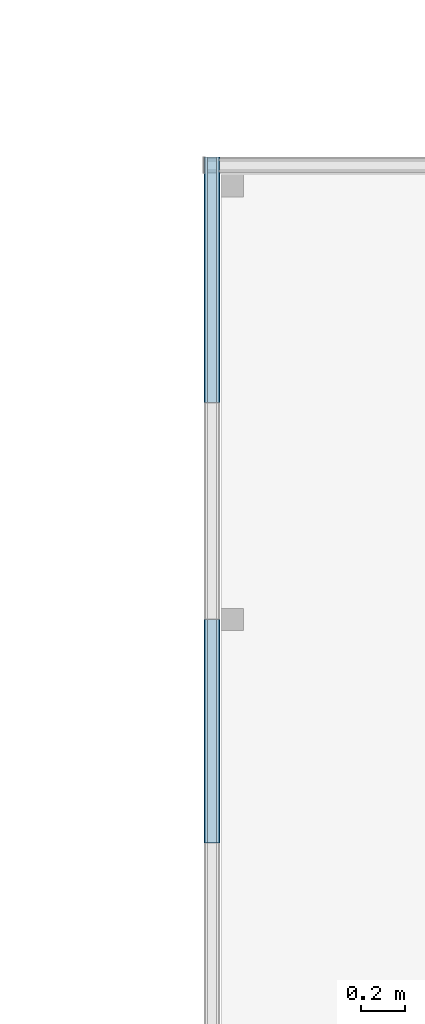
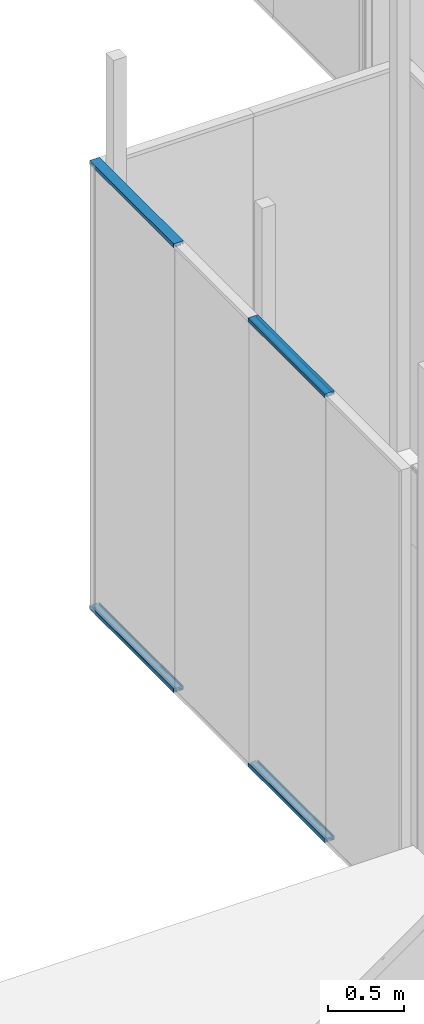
# One storey, part 79 of 387: 8 building element parts, 5 elements without a shape of their own.
"""IFC2X3 building model written with IfcOpenShell, lengths in millimetres."""

from ifc_helpers import new_model, entity, si_unit, converted_unit, derived_unit, money_unit, direction, frame, origin_with_axes, place, context, subcontext, project, spatial, faceted_brep, source, transform, mapped, material, type_object, element, aggregate, save


model = new_model("IFC2X3")

# Units and contexts
model_context = context("Model", 3, precision=0.01, world=origin_with_axes(), true_north=direction((0.0, 1.0)))
body_context = subcontext(model_context, "Body", "Model", "MODEL_VIEW")
ifc_project = project(units=[si_unit("LENGTHUNIT", "METRE", prefix="MILLI"), si_unit("AREAUNIT", "SQUARE_METRE"), si_unit("VOLUMEUNIT", "CUBIC_METRE"), converted_unit("PLANEANGLEUNIT", "DEGREE", entity("IfcPlaneAngleMeasure", 0.0174532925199), si_unit("PLANEANGLEUNIT", "RADIAN"), dimensions=[0, 0, 0, 0, 0, 0, 0]), si_unit("SOLIDANGLEUNIT", "STERADIAN"), money_unit("EUR"), converted_unit("TIMEUNIT", "Year", entity("IfcTimeMeasure", 31556926.0), si_unit("TIMEUNIT", "SECOND"), dimensions=[0, 0, 1, 0, 0, 0, 0]), si_unit("MASSUNIT", "GRAM", prefix="KILO"), si_unit("THERMODYNAMICTEMPERATUREUNIT", "DEGREE_CELSIUS"), si_unit("LUMINOUSINTENSITYUNIT", "LUMEN"), si_unit("ENERGYUNIT", "JOULE", prefix="MEGA"), derived_unit("THERMALCONDUCTANCEUNIT", [(si_unit("POWERUNIT", "WATT"), 1), (si_unit("LENGTHUNIT", "METRE"), -1), (si_unit("THERMODYNAMICTEMPERATUREUNIT", "KELVIN"), -1)]), derived_unit("SPECIFICHEATCAPACITYUNIT", [(si_unit("ENERGYUNIT", "JOULE"), 1), (si_unit("MASSUNIT", "GRAM", prefix="KILO"), -1), (si_unit("THERMODYNAMICTEMPERATUREUNIT", "KELVIN"), -1)]), derived_unit("MASSDENSITYUNIT", [(si_unit("MASSUNIT", "GRAM", prefix="KILO"), 1), (si_unit("VOLUMEUNIT", "CUBIC_METRE"), -1)])], contexts=[model_context])

# Site, building, storey
site_placement = place(None, origin_with_axes())
site = spatial("IfcSite", under=ifc_project, at=site_placement, Name="Puškini 31, Narva", CompositionType="ELEMENT")
building_placement = place(site_placement, origin_with_axes())
building = spatial("IfcBuilding", under=site, at=building_placement, Name="Narva Riigigümnaasium", CompositionType="ELEMENT")
storey_placement = place(building_placement, frame((0.0, 0.0, 2640.0), z_axis=(0.0, 0.0, 1.0), x_axis=(1.0, 0.0, 0.0)))
storey = spatial("IfcBuildingStorey", under=building, at=storey_placement, Name="2.korrus +2.64", CompositionType="ELEMENT", Elevation=2640.0)

# Curtain wall, members, building element parts
curtain_wall_type = type_object("IfcCurtainWallType", Name="Curtain Wall Type", PredefinedType="NOTDEFINED")
curtain_wall_placement = place(storey_placement, frame((39058.5000017, 177141.447761, -584.5), z_axis=(0.0, 0.0, 1.0), x_axis=(1.0, 0.0, 0.0)))
curtain_wall = element("IfcCurtainWall", 1, at=curtain_wall_placement, inside=storey, type_object=curtain_wall_type, Name="G-SKLF-39")
member_type = type_object("IfcMemberType", Name="Boundary Frame 30 x 37", PredefinedType="MULLION")
member_1_placement = place(curtain_wall_placement, frame((-5.72697445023e-09, -504.0, 0.0), z_axis=(0.0, 1.0, 0.0), x_axis=(0.0, 0.0, 1.0)))
member_1 = element("IfcMember", 2, at=member_1_placement, type_object=member_type, Name="G-SKLF-45-raam", ObjectType="MULLION")
ifc_material_1 = material(Name="Klaasvill")
shared_shape_1 = source(origin_with_axes(), body_context, "Body", "Brep", [
    faceted_brep([(-7.49999990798, 20.000000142, 0.0), (-7.49999990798, 20.000000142, 1008.0), (-13.8499999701, 20.000000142, 1008.0), (-13.8499999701, 20.000000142, 0.0), (-7.49999990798, 34.0161444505, 0.0), (-7.49999990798, 34.0161444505, 1008.0), (-13.8499999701, 34.0161444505, 1008.0), (-13.8499999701, 34.0161444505, 0.0)], [[[0, 1, 2, 3]], [[4, 5, 1, 0]], [[1, 5, 6, 2]], [[3, 2, 6, 7]], [[0, 3, 7, 4]], [[7, 6, 5, 4]]]),
    faceted_brep([(-24.987414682, 34.0161444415, 0.0), (-24.987414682, 34.0161444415, 1008.0), (-25.004489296, 32.0307503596, 1008.0), (-25.004489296, 32.0307503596, 0.0), (-28.5126239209, 34.0161444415, 0.0), (-28.5126239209, 34.0161444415, 1008.0), (-28.7655837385, 33.0385325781, 1008.0), (-28.4955493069, 32.0307503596, 1008.0), (-27.75780152, 31.2930025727, 1008.0), (-26.7500193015, 31.0229681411, 1008.0), (-25.742237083, 31.2930025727, 1008.0), (-25.742237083, 31.2930025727, 0.0), (-26.7500193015, 31.0229681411, 0.0), (-27.75780152, 31.2930025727, 0.0), (-28.4955493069, 32.0307503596, 0.0), (-28.7655837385, 33.0385325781, 0.0)], [[[0, 1, 2, 3]], [[4, 5, 1, 0]], [[1, 5, 6, 7, 8, 9, 10, 2]], [[3, 2, 10, 11]], [[0, 3, 11, 12, 13, 14, 15, 4]], [[15, 6, 5, 4]], [[14, 7, 6, 15]], [[13, 8, 7, 14]], [[12, 9, 8, 13]], [[11, 10, 9, 12]]]),
    faceted_brep([(-7.49999990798, -19.9999997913, 0.0), (-7.49999990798, -19.9999997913, 1008.0), (-7.49999990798, -34.0161445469, 1008.0), (-7.49999990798, -34.0161445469, 0.0), (-13.8499999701, -19.9999997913, 0.0), (-13.8499999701, -19.9999997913, 1008.0), (-13.8499999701, -34.0161445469, 1008.0), (-13.8499999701, -34.0161445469, 0.0)], [[[0, 1, 2, 3]], [[4, 5, 1, 0]], [[1, 5, 6, 2]], [[3, 2, 6, 7]], [[0, 3, 7, 4]], [[7, 6, 5, 4]]]),
    faceted_brep([(-25.004489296, -32.0307503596, 0.0), (-25.004489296, -32.0307503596, 1008.0), (-24.987414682, -34.0161444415, 1008.0), (-24.987414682, -34.0161444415, 0.0), (-25.742237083, -31.2930025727, 0.0), (-25.742237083, -31.2930025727, 1008.0), (-26.7500193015, -31.0229681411, 1008.0), (-27.75780152, -31.2930025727, 1008.0), (-28.4955493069, -32.0307503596, 1008.0), (-28.7655837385, -33.0385325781, 1008.0), (-28.5126239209, -34.0161444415, 1008.0), (-28.5126239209, -34.0161444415, 0.0), (-28.7655837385, -33.0385325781, 0.0), (-28.4955493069, -32.0307503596, 0.0), (-27.75780152, -31.2930025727, 0.0), (-26.7500193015, -31.0229681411, 0.0)], [[[0, 1, 2, 3]], [[4, 5, 1, 0]], [[1, 5, 6, 7, 8, 9, 10, 2]], [[3, 2, 10, 11]], [[0, 3, 11, 12, 13, 14, 15, 4]], [[15, 6, 5, 4]], [[14, 7, 6, 15]], [[13, 8, 7, 14]], [[12, 9, 8, 13]], [[11, 10, 9, 12]]]),
])
building_element_part_1_placement = place(member_1_placement, origin_with_axes())
building_element_part_1 = element("IfcBuildingElementPart", 3, at=building_element_part_1_placement, material=ifc_material_1, Name="Klaasvill", context=body_context, shape_type="MappedRepresentation", body=[
    mapped(shared_shape_1, transform((0.0, 0.0, 0.0), x_axis=(-1.0, 0.0, 0.0), y_axis=(0.0, -1.0, 0.0), z_axis=(0.0, 0.0, 1.0))),
])
member_2_placement = place(curtain_wall_placement, frame((5.71986902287e-09, 504.0, 3599.00002262), z_axis=(0.0, -1.0, 0.0), x_axis=(0.0, 0.0, -1.0)))
member_2 = element("IfcMember", 4, at=member_2_placement, type_object=member_type, Name="G-SKLF-51-raam", ObjectType="MULLION")
building_element_part_2_placement = place(member_2_placement, origin_with_axes())
building_element_part_2 = element("IfcBuildingElementPart", 5, at=building_element_part_2_placement, material=ifc_material_1, Name="Klaasvill", context=body_context, shape_type="MappedRepresentation", body=[
    mapped(shared_shape_1, transform((0.0, 0.0, 0.0), x_axis=(-1.0, 0.0, 0.0), y_axis=(0.0, -1.0, 0.0), z_axis=(0.0, 0.0, 1.0))),
])
ifc_material_2 = material(Name="Teras RAL7012")
shared_shape_2 = source(origin_with_axes(), body_context, "Body", "Brep", [
    faceted_brep([(0.0, -17.0000000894, 0.0), (0.0, -17.0000000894, 1008.0), (-29.5999996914, -17.0000000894, 1008.0), (-29.5999996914, -17.0000000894, 0.0), (0.0, 17.0000000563, 0.0), (0.0, 17.0000000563, 1008.0), (-29.5999996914, 17.0000000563, 1008.0), (-1.9999999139, 15.0000001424, 1008.0), (-1.9999999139, -15.0000001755, 1008.0), (-18.7999996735, -15.0000001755, 1008.0), (-18.7999996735, 15.0000001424, 1008.0), (-29.5999996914, 17.0000000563, 0.0), (-1.9999999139, 15.0000001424, 0.0), (-18.7999996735, 15.0000001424, 0.0), (-18.7999996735, -15.0000001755, 0.0), (-1.9999999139, -15.0000001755, 0.0)], [[[0, 1, 2, 3]], [[4, 5, 1, 0]], [[1, 5, 6, 2], [7, 8, 9, 10]], [[3, 2, 6, 11]], [[0, 3, 11, 4], [12, 13, 14, 15]], [[11, 6, 5, 4]], [[15, 8, 7, 12]], [[14, 9, 8, 15]], [[13, 10, 9, 14]], [[12, 7, 10, 13]]]),
    faceted_brep([(0.0, 17.0, 0.0), (0.0, 17.0, 1008.0), (-29.5999996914, 17.0000000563, 1008.0), (-29.5999996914, 17.0000000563, 0.0), (0.0, 37.0, 0.0), (0.0, 37.0, 1008.0), (-30.0000193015, 37.0, 1008.0), (-30.0000193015, 34.0161444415, 1008.0), (-28.5126239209, 34.0161444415, 1008.0), (-24.987414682, 34.0161444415, 1008.0), (-13.8499999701, 34.0161444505, 1008.0), (-7.49999999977, 34.0161444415, 1008.0), (-7.49999999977, 20.0, 1008.0), (-13.8499999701, 20.000000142, 1008.0), (-30.0000193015, 20.0, 1008.0), (-30.0000193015, 17.0, 1008.0), (-30.0000193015, 17.0, 0.0), (-30.0000193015, 20.0, 0.0), (-13.8499999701, 20.000000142, 0.0), (-7.49999999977, 20.0, 0.0), (-7.49999999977, 34.0161444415, 0.0), (-13.8499999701, 34.0161444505, 0.0), (-24.987414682, 34.0161444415, 0.0), (-28.5126239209, 34.0161444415, 0.0), (-30.0000193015, 34.0161444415, 0.0), (-30.0000193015, 37.0, 0.0)], [[[0, 1, 2, 3]], [[4, 5, 1, 0]], [[1, 5, 6, 7, 8, 9, 10, 11, 12, 13, 14, 15, 2]], [[3, 2, 15, 16]], [[0, 3, 16, 17, 18, 19, 20, 21, 22, 23, 24, 25, 4]], [[25, 6, 5, 4]], [[24, 7, 6, 25]], [[23, 8, 7, 24]], [[22, 9, 8, 23]], [[21, 10, 9, 22]], [[20, 11, 10, 21]], [[19, 12, 11, 20]], [[18, 13, 12, 19]], [[17, 14, 13, 18]], [[16, 15, 14, 17]]]),
    faceted_brep([(0.0, -17.0, 0.0), (0.0, -17.0, 1008.0), (0.0, -37.0, 1008.0), (0.0, -37.0, 0.0), (-29.5999996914, -17.0000000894, 0.0), (-29.5999996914, -17.0000000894, 1008.0), (-30.0000193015, -17.0, 1008.0), (-30.0000193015, -20.0, 1008.0), (-13.8499999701, -19.9999997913, 1008.0), (-7.49999999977, -20.0, 1008.0), (-7.49999999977, -34.0161444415, 1008.0), (-13.8499999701, -34.0161445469, 1008.0), (-24.987414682, -34.0161444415, 1008.0), (-28.5126239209, -34.0161444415, 1008.0), (-30.0000193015, -34.0161444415, 1008.0), (-30.0000193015, -37.0, 1008.0), (-30.0000193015, -37.0, 0.0), (-30.0000193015, -34.0161444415, 0.0), (-28.5126239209, -34.0161444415, 0.0), (-24.987414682, -34.0161444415, 0.0), (-13.8499999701, -34.0161445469, 0.0), (-7.49999999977, -34.0161444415, 0.0), (-7.49999999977, -20.0, 0.0), (-13.8499999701, -19.9999997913, 0.0), (-30.0000193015, -20.0, 0.0), (-30.0000193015, -17.0, 0.0)], [[[0, 1, 2, 3]], [[4, 5, 1, 0]], [[1, 5, 6, 7, 8, 9, 10, 11, 12, 13, 14, 15, 2]], [[3, 2, 15, 16]], [[0, 3, 16, 17, 18, 19, 20, 21, 22, 23, 24, 25, 4]], [[25, 6, 5, 4]], [[24, 7, 6, 25]], [[23, 8, 7, 24]], [[22, 9, 8, 23]], [[21, 10, 9, 22]], [[20, 11, 10, 21]], [[19, 12, 11, 20]], [[18, 13, 12, 19]], [[17, 14, 13, 18]], [[16, 15, 14, 17]]]),
])
building_element_part_3_placement = place(member_1_placement, origin_with_axes())
building_element_part_3 = element("IfcBuildingElementPart", 6, at=building_element_part_3_placement, material=ifc_material_2, Name="Teras RAL7012", context=body_context, shape_type="MappedRepresentation", body=[
    mapped(shared_shape_2, transform((0.0, 0.0, 0.0), x_axis=(-1.0, 0.0, 0.0), y_axis=(0.0, -1.0, 0.0), z_axis=(0.0, 0.0, 1.0))),
])
aggregate(member_1, [building_element_part_1, building_element_part_3])
building_element_part_4_placement = place(member_2_placement, origin_with_axes())
building_element_part_4 = element("IfcBuildingElementPart", 7, at=building_element_part_4_placement, material=ifc_material_2, Name="Teras RAL7012", context=body_context, shape_type="MappedRepresentation", body=[
    mapped(shared_shape_2, transform((0.0, 0.0, 0.0), x_axis=(-1.0, 0.0, 0.0), y_axis=(0.0, -1.0, 0.0), z_axis=(0.0, 0.0, 1.0))),
])
aggregate(member_2, [building_element_part_2, building_element_part_4])
member_3_placement = place(curtain_wall_placement, frame((1.68185465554e-08, 1481.0, 0.0), z_axis=(0.0, 1.0, 0.0), x_axis=(0.0, 0.0, 1.0)))
member_3 = element("IfcMember", 8, at=member_3_placement, type_object=member_type, Name="G-SKLF-47-raam", ObjectType="MULLION")
shared_shape_3 = source(origin_with_axes(), body_context, "Body", "Brep", [
    faceted_brep([(-7.49999990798, 20.000000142, 0.0), (-7.49999990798, 20.000000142, 1106.552239), (-13.8499999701, 20.000000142, 1106.552239), (-13.8499999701, 20.000000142, 0.0), (-7.49999990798, 34.0161444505, 0.0), (-7.49999990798, 34.0161444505, 1106.552239), (-13.8499999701, 34.0161444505, 1106.552239), (-13.8499999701, 34.0161444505, 0.0)], [[[0, 1, 2, 3]], [[4, 5, 1, 0]], [[1, 5, 6, 2]], [[3, 2, 6, 7]], [[0, 3, 7, 4]], [[7, 6, 5, 4]]]),
    faceted_brep([(-24.987414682, 34.0161444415, 0.0), (-24.987414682, 34.0161444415, 1106.552239), (-25.004489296, 32.0307503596, 1106.552239), (-25.004489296, 32.0307503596, 0.0), (-28.5126239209, 34.0161444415, 0.0), (-28.5126239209, 34.0161444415, 1106.552239), (-28.7655837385, 33.0385325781, 1106.552239), (-28.4955493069, 32.0307503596, 1106.552239), (-27.75780152, 31.2930025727, 1106.552239), (-26.7500193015, 31.0229681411, 1106.552239), (-25.742237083, 31.2930025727, 1106.552239), (-25.742237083, 31.2930025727, 0.0), (-26.7500193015, 31.0229681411, 0.0), (-27.75780152, 31.2930025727, 0.0), (-28.4955493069, 32.0307503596, 0.0), (-28.7655837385, 33.0385325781, 0.0)], [[[0, 1, 2, 3]], [[4, 5, 1, 0]], [[1, 5, 6, 7, 8, 9, 10, 2]], [[3, 2, 10, 11]], [[0, 3, 11, 12, 13, 14, 15, 4]], [[15, 6, 5, 4]], [[14, 7, 6, 15]], [[13, 8, 7, 14]], [[12, 9, 8, 13]], [[11, 10, 9, 12]]]),
    faceted_brep([(-7.49999990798, -19.9999997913, 0.0), (-7.49999990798, -19.9999997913, 1106.552239), (-7.49999990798, -34.0161445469, 1106.552239), (-7.49999990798, -34.0161445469, 0.0), (-13.8499999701, -19.9999997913, 0.0), (-13.8499999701, -19.9999997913, 1106.552239), (-13.8499999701, -34.0161445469, 1106.552239), (-13.8499999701, -34.0161445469, 0.0)], [[[0, 1, 2, 3]], [[4, 5, 1, 0]], [[1, 5, 6, 2]], [[3, 2, 6, 7]], [[0, 3, 7, 4]], [[7, 6, 5, 4]]]),
    faceted_brep([(-25.004489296, -32.0307503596, 0.0), (-25.004489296, -32.0307503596, 1106.552239), (-24.987414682, -34.0161444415, 1106.552239), (-24.987414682, -34.0161444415, 0.0), (-25.742237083, -31.2930025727, 0.0), (-25.742237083, -31.2930025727, 1106.552239), (-26.7500193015, -31.0229681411, 1106.552239), (-27.75780152, -31.2930025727, 1106.552239), (-28.4955493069, -32.0307503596, 1106.552239), (-28.7655837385, -33.0385325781, 1106.552239), (-28.5126239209, -34.0161444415, 1106.552239), (-28.5126239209, -34.0161444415, 0.0), (-28.7655837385, -33.0385325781, 0.0), (-28.4955493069, -32.0307503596, 0.0), (-27.75780152, -31.2930025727, 0.0), (-26.7500193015, -31.0229681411, 0.0)], [[[0, 1, 2, 3]], [[4, 5, 1, 0]], [[1, 5, 6, 7, 8, 9, 10, 2]], [[3, 2, 10, 11]], [[0, 3, 11, 12, 13, 14, 15, 4]], [[15, 6, 5, 4]], [[14, 7, 6, 15]], [[13, 8, 7, 14]], [[12, 9, 8, 13]], [[11, 10, 9, 12]]]),
])
building_element_part_5_placement = place(member_3_placement, origin_with_axes())
building_element_part_5 = element("IfcBuildingElementPart", 9, at=building_element_part_5_placement, material=ifc_material_1, Name="Klaasvill", context=body_context, shape_type="MappedRepresentation", body=[
    mapped(shared_shape_3, transform((0.0, 0.0, 0.0), x_axis=(-1.0, 0.0, 0.0), y_axis=(0.0, -1.0, 0.0), z_axis=(0.0, 0.0, 1.0))),
])
member_4_placement = place(curtain_wall_placement, frame((2.9388047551e-08, 2587.552239, 3599.00002262), z_axis=(0.0, -1.0, 0.0), x_axis=(0.0, 0.0, -1.0)))
member_4 = element("IfcMember", 10, at=member_4_placement, type_object=member_type, Name="G-SKLF-49-raam", ObjectType="MULLION")
aggregate(curtain_wall, [member_1, member_3, member_2, member_4])
building_element_part_6_placement = place(member_4_placement, origin_with_axes())
building_element_part_6 = element("IfcBuildingElementPart", 11, at=building_element_part_6_placement, material=ifc_material_1, Name="Klaasvill", context=body_context, shape_type="MappedRepresentation", body=[
    mapped(shared_shape_3, transform((0.0, 0.0, 0.0), x_axis=(-1.0, 0.0, 0.0), y_axis=(0.0, -1.0, 0.0), z_axis=(0.0, 0.0, 1.0))),
])
shared_shape_4 = source(origin_with_axes(), body_context, "Body", "Brep", [
    faceted_brep([(0.0, -17.0000000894, 0.0), (0.0, -17.0000000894, 1106.552239), (-29.5999996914, -17.0000000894, 1106.552239), (-29.5999996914, -17.0000000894, 0.0), (0.0, 17.0000000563, 0.0), (0.0, 17.0000000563, 1106.552239), (-29.5999996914, 17.0000000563, 1106.552239), (-1.9999999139, 15.0000001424, 1106.552239), (-1.9999999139, -15.0000001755, 1106.552239), (-18.7999996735, -15.0000001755, 1106.552239), (-18.7999996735, 15.0000001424, 1106.552239), (-29.5999996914, 17.0000000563, 0.0), (-1.9999999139, 15.0000001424, 0.0), (-18.7999996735, 15.0000001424, 0.0), (-18.7999996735, -15.0000001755, 0.0), (-1.9999999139, -15.0000001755, 0.0)], [[[0, 1, 2, 3]], [[4, 5, 1, 0]], [[1, 5, 6, 2], [7, 8, 9, 10]], [[3, 2, 6, 11]], [[0, 3, 11, 4], [12, 13, 14, 15]], [[11, 6, 5, 4]], [[15, 8, 7, 12]], [[14, 9, 8, 15]], [[13, 10, 9, 14]], [[12, 7, 10, 13]]]),
    faceted_brep([(0.0, 17.0, 0.0), (0.0, 17.0, 1106.552239), (-29.5999996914, 17.0000000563, 1106.552239), (-29.5999996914, 17.0000000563, 0.0), (0.0, 37.0, 0.0), (0.0, 37.0, 1106.552239), (-30.0000193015, 37.0, 1106.552239), (-30.0000193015, 34.0161444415, 1106.552239), (-28.5126239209, 34.0161444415, 1106.552239), (-24.987414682, 34.0161444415, 1106.552239), (-13.8499999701, 34.0161444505, 1106.552239), (-7.49999999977, 34.0161444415, 1106.552239), (-7.49999999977, 20.0, 1106.552239), (-13.8499999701, 20.000000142, 1106.552239), (-30.0000193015, 20.0, 1106.552239), (-30.0000193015, 17.0, 1106.552239), (-30.0000193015, 17.0, 0.0), (-30.0000193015, 20.0, 0.0), (-13.8499999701, 20.000000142, 0.0), (-7.49999999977, 20.0, 0.0), (-7.49999999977, 34.0161444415, 0.0), (-13.8499999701, 34.0161444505, 0.0), (-24.987414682, 34.0161444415, 0.0), (-28.5126239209, 34.0161444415, 0.0), (-30.0000193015, 34.0161444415, 0.0), (-30.0000193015, 37.0, 0.0)], [[[0, 1, 2, 3]], [[4, 5, 1, 0]], [[1, 5, 6, 7, 8, 9, 10, 11, 12, 13, 14, 15, 2]], [[3, 2, 15, 16]], [[0, 3, 16, 17, 18, 19, 20, 21, 22, 23, 24, 25, 4]], [[25, 6, 5, 4]], [[24, 7, 6, 25]], [[23, 8, 7, 24]], [[22, 9, 8, 23]], [[21, 10, 9, 22]], [[20, 11, 10, 21]], [[19, 12, 11, 20]], [[18, 13, 12, 19]], [[17, 14, 13, 18]], [[16, 15, 14, 17]]]),
    faceted_brep([(0.0, -17.0, 0.0), (0.0, -17.0, 1106.552239), (0.0, -37.0, 1106.552239), (0.0, -37.0, 0.0), (-29.5999996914, -17.0000000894, 0.0), (-29.5999996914, -17.0000000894, 1106.552239), (-30.0000193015, -17.0, 1106.552239), (-30.0000193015, -20.0, 1106.552239), (-13.8499999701, -19.9999997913, 1106.552239), (-7.49999999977, -20.0, 1106.552239), (-7.49999999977, -34.0161444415, 1106.552239), (-13.8499999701, -34.0161445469, 1106.552239), (-24.987414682, -34.0161444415, 1106.552239), (-28.5126239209, -34.0161444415, 1106.552239), (-30.0000193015, -34.0161444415, 1106.552239), (-30.0000193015, -37.0, 1106.552239), (-30.0000193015, -37.0, 0.0), (-30.0000193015, -34.0161444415, 0.0), (-28.5126239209, -34.0161444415, 0.0), (-24.987414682, -34.0161444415, 0.0), (-13.8499999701, -34.0161445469, 0.0), (-7.49999999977, -34.0161444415, 0.0), (-7.49999999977, -20.0, 0.0), (-13.8499999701, -19.9999997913, 0.0), (-30.0000193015, -20.0, 0.0), (-30.0000193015, -17.0, 0.0)], [[[0, 1, 2, 3]], [[4, 5, 1, 0]], [[1, 5, 6, 7, 8, 9, 10, 11, 12, 13, 14, 15, 2]], [[3, 2, 15, 16]], [[0, 3, 16, 17, 18, 19, 20, 21, 22, 23, 24, 25, 4]], [[25, 6, 5, 4]], [[24, 7, 6, 25]], [[23, 8, 7, 24]], [[22, 9, 8, 23]], [[21, 10, 9, 22]], [[20, 11, 10, 21]], [[19, 12, 11, 20]], [[18, 13, 12, 19]], [[17, 14, 13, 18]], [[16, 15, 14, 17]]]),
])
building_element_part_7_placement = place(member_3_placement, origin_with_axes())
building_element_part_7 = element("IfcBuildingElementPart", 12, at=building_element_part_7_placement, material=ifc_material_2, Name="Teras RAL7012", context=body_context, shape_type="MappedRepresentation", body=[
    mapped(shared_shape_4, transform((0.0, 0.0, 0.0), x_axis=(-1.0, 0.0, 0.0), y_axis=(0.0, -1.0, 0.0), z_axis=(0.0, 0.0, 1.0))),
])
aggregate(member_3, [building_element_part_5, building_element_part_7])
building_element_part_8_placement = place(member_4_placement, origin_with_axes())
building_element_part_8 = element("IfcBuildingElementPart", 13, at=building_element_part_8_placement, material=ifc_material_2, Name="Teras RAL7012", context=body_context, shape_type="MappedRepresentation", body=[
    mapped(shared_shape_4, transform((0.0, 0.0, 0.0), x_axis=(-1.0, 0.0, 0.0), y_axis=(0.0, -1.0, 0.0), z_axis=(0.0, 0.0, 1.0))),
])
aggregate(member_4, [building_element_part_6, building_element_part_8])

save(model, "model.ifc")
